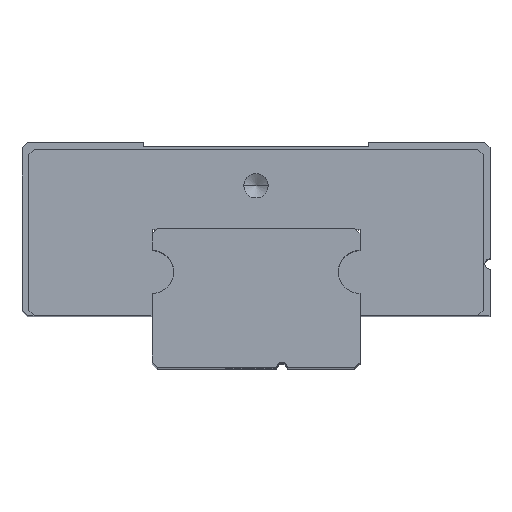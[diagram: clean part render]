
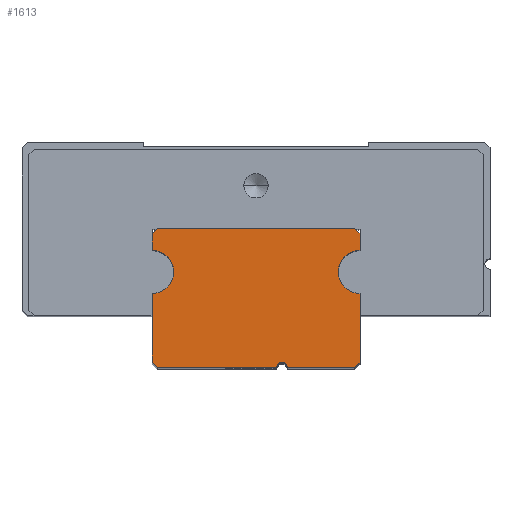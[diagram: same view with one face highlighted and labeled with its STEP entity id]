
A CAD part, top view. The second image highlights one B-rep face of the part: STEP entity #1613.
In plain terms, the highlighted planar face has unit normal (0, 0, 1).
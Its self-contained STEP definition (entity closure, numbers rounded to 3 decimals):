
#65 = DIRECTION ( 'NONE',  ( 0., -1., 0. ) ) ;
#83 = ORIENTED_EDGE ( 'NONE', *, *, #3582, .T. ) ;
#191 = ORIENTED_EDGE ( 'NONE', *, *, #1946, .T. ) ;
#228 = DIRECTION ( 'NONE',  ( 0., 0., 1. ) ) ;
#251 = EDGE_LOOP ( 'NONE', ( #191, #6255, #4224, #4396, #83, #284, #647, #2415, #5844, #5753, #6287, #1417, #5706, #4554, #1431 ) ) ;
#266 = CARTESIAN_POINT ( 'NONE',  ( 1.5, 0., 35. ) ) ;
#267 = EDGE_CURVE ( 'NONE', #4989, #5417, #1178, .T. ) ;
#284 = ORIENTED_EDGE ( 'NONE', *, *, #4544, .F. ) ;
#296 = VERTEX_POINT ( 'NONE', #3782 ) ;
#456 = VECTOR ( 'NONE', #864, 1000. ) ;
#471 = CARTESIAN_POINT ( 'NONE',  ( -6., 0.3, 35. ) ) ;
#553 = CARTESIAN_POINT ( 'NONE',  ( 6., 0., 35. ) ) ;
#647 = ORIENTED_EDGE ( 'NONE', *, *, #2744, .T. ) ;
#652 = DIRECTION ( 'NONE',  ( -0.707, -0.707, 0. ) ) ;
#690 = VERTEX_POINT ( 'NONE', #5147 ) ;
#817 = CARTESIAN_POINT ( 'NONE',  ( 1.2, 0., 35. ) ) ;
#864 = DIRECTION ( 'NONE',  ( 0.707, 0.707, 0. ) ) ;
#889 = CARTESIAN_POINT ( 'NONE',  ( 6., 5.5, 35. ) ) ;
#991 = VECTOR ( 'NONE', #5794, 1000. ) ;
#992 = CARTESIAN_POINT ( 'NONE',  ( 1.8, 0., 35. ) ) ;
#1035 = EDGE_CURVE ( 'NONE', #4948, #296, #4616, .T. ) ;
#1124 = EDGE_CURVE ( 'NONE', #3020, #3512, #4229, .T. ) ;
#1139 = LINE ( 'NONE', #4559, #4094 ) ;
#1178 = LINE ( 'NONE', #553, #5055 ) ;
#1201 = CARTESIAN_POINT ( 'NONE',  ( -5.7, 8., 35. ) ) ;
#1270 = CARTESIAN_POINT ( 'NONE',  ( 5.7, 8., 35. ) ) ;
#1298 = CARTESIAN_POINT ( 'NONE',  ( 6., 8., 35. ) ) ;
#1417 = ORIENTED_EDGE ( 'NONE', *, *, #4705, .F. ) ;
#1431 = ORIENTED_EDGE ( 'NONE', *, *, #5610, .T. ) ;
#1556 = LINE ( 'NONE', #6038, #2778 ) ;
#1559 = VERTEX_POINT ( 'NONE', #1201 ) ;
#1613 = ADVANCED_FACE ( 'NONE', ( #2323 ), #5179, .F. ) ;
#1637 = VERTEX_POINT ( 'NONE', #1710 ) ;
#1702 = DIRECTION ( 'NONE',  ( -1., 0., 0. ) ) ;
#1710 = CARTESIAN_POINT ( 'NONE',  ( -5.7, 0., 35. ) ) ;
#1719 = CIRCLE ( 'NONE', #4513, 1.25 ) ;
#1776 = CARTESIAN_POINT ( 'NONE',  ( -6., 0., 35. ) ) ;
#1804 = VERTEX_POINT ( 'NONE', #3901 ) ;
#1914 = CARTESIAN_POINT ( 'NONE',  ( -6., 6.75, 35. ) ) ;
#1946 = EDGE_CURVE ( 'NONE', #1559, #3512, #1556, .T. ) ;
#2007 = DIRECTION ( 'NONE',  ( -1., 0., 0. ) ) ;
#2063 = VECTOR ( 'NONE', #3664, 1000. ) ;
#2188 = DIRECTION ( 'NONE',  ( -1., 0., 0. ) ) ;
#2234 = CARTESIAN_POINT ( 'NONE',  ( -6., 5.5, 35. ) ) ;
#2293 = DIRECTION ( 'NONE',  ( 0., -1., 0. ) ) ;
#2315 = AXIS2_PLACEMENT_3D ( 'NONE', #5309, #4892, #4398 ) ;
#2323 = FACE_OUTER_BOUND ( 'NONE', #251, .T. ) ;
#2415 = ORIENTED_EDGE ( 'NONE', *, *, #4650, .F. ) ;
#2504 = CARTESIAN_POINT ( 'NONE',  ( 6., 4.25, 35. ) ) ;
#2574 = EDGE_CURVE ( 'NONE', #1804, #3020, #5605, .T. ) ;
#2616 = AXIS2_PLACEMENT_3D ( 'NONE', #2234, #5218, #6111 ) ;
#2673 = DIRECTION ( 'NONE',  ( 0., 1., 0. ) ) ;
#2704 = DIRECTION ( 'NONE',  ( 0., 0., -1. ) ) ;
#2744 = EDGE_CURVE ( 'NONE', #5618, #2791, #6136, .T. ) ;
#2774 = VECTOR ( 'NONE', #2673, 1000. ) ;
#2778 = VECTOR ( 'NONE', #652, 1000. ) ;
#2791 = VERTEX_POINT ( 'NONE', #992 ) ;
#2837 = DIRECTION ( 'NONE',  ( -1., 0., 0. ) ) ;
#2966 = CARTESIAN_POINT ( 'NONE',  ( 4.75, 5.5, 35. ) ) ;
#3020 = VERTEX_POINT ( 'NONE', #1914 ) ;
#3041 = CIRCLE ( 'NONE', #3548, 1.25 ) ;
#3048 = VERTEX_POINT ( 'NONE', #6376 ) ;
#3052 = EDGE_CURVE ( 'NONE', #690, #296, #5887, .T. ) ;
#3136 = VECTOR ( 'NONE', #1702, 1000. ) ;
#3240 = LINE ( 'NONE', #4745, #3136 ) ;
#3242 = DIRECTION ( 'NONE',  ( -1., 0., 0. ) ) ;
#3317 = CARTESIAN_POINT ( 'NONE',  ( 6., 0.3, 35. ) ) ;
#3318 = EDGE_CURVE ( 'NONE', #4490, #4989, #1719, .T. ) ;
#3512 = VERTEX_POINT ( 'NONE', #4424 ) ;
#3548 = AXIS2_PLACEMENT_3D ( 'NONE', #4645, #228, #2188 ) ;
#3582 = EDGE_CURVE ( 'NONE', #4454, #1637, #1139, .T. ) ;
#3664 = DIRECTION ( 'NONE',  ( 0.707, -0.707, 0. ) ) ;
#3782 = CARTESIAN_POINT ( 'NONE',  ( 6., 7.7, 35. ) ) ;
#3815 = CARTESIAN_POINT ( 'NONE',  ( 6., 6.75, 35. ) ) ;
#3887 = VECTOR ( 'NONE', #6276, 1000. ) ;
#3901 = CARTESIAN_POINT ( 'NONE',  ( -6., 4.25, 35. ) ) ;
#4094 = VECTOR ( 'NONE', #5015, 1000. ) ;
#4174 = VECTOR ( 'NONE', #3242, 1000. ) ;
#4224 = ORIENTED_EDGE ( 'NONE', *, *, #2574, .F. ) ;
#4229 = LINE ( 'NONE', #1776, #2774 ) ;
#4305 = CARTESIAN_POINT ( 'NONE',  ( -6., 0., 35. ) ) ;
#4396 = ORIENTED_EDGE ( 'NONE', *, *, #5303, .F. ) ;
#4398 = DIRECTION ( 'NONE',  ( -1., 0., 0. ) ) ;
#4424 = CARTESIAN_POINT ( 'NONE',  ( -6., 7.7, 35. ) ) ;
#4453 = CARTESIAN_POINT ( 'NONE',  ( 5.7, 8., 35. ) ) ;
#4454 = VERTEX_POINT ( 'NONE', #471 ) ;
#4490 = VERTEX_POINT ( 'NONE', #2966 ) ;
#4505 = CARTESIAN_POINT ( 'NONE',  ( 6., 0.3, 35. ) ) ;
#4513 = AXIS2_PLACEMENT_3D ( 'NONE', #889, #5785, #2837 ) ;
#4544 = EDGE_CURVE ( 'NONE', #5618, #1637, #5495, .T. ) ;
#4554 = ORIENTED_EDGE ( 'NONE', *, *, #1035, .F. ) ;
#4559 = CARTESIAN_POINT ( 'NONE',  ( -5.7, 0., 35. ) ) ;
#4616 = LINE ( 'NONE', #1270, #2063 ) ;
#4641 = AXIS2_PLACEMENT_3D ( 'NONE', #266, #2704, #2293 ) ;
#4645 = CARTESIAN_POINT ( 'NONE',  ( 6., 5.5, 35. ) ) ;
#4650 = EDGE_CURVE ( 'NONE', #3048, #2791, #3240, .T. ) ;
#4705 = EDGE_CURVE ( 'NONE', #690, #4490, #3041, .T. ) ;
#4728 = LINE ( 'NONE', #4305, #991 ) ;
#4745 = CARTESIAN_POINT ( 'NONE',  ( 1.5, 0., 35. ) ) ;
#4892 = DIRECTION ( 'NONE',  ( 0., 0., -1. ) ) ;
#4948 = VERTEX_POINT ( 'NONE', #4453 ) ;
#4989 = VERTEX_POINT ( 'NONE', #2504 ) ;
#5015 = DIRECTION ( 'NONE',  ( 0.707, -0.707, 0. ) ) ;
#5048 = CARTESIAN_POINT ( 'NONE',  ( 1.5, 0., 35. ) ) ;
#5055 = VECTOR ( 'NONE', #65, 1000. ) ;
#5147 = CARTESIAN_POINT ( 'NONE',  ( 6., 6.75, 35. ) ) ;
#5179 = PLANE ( 'NONE',  #4641 ) ;
#5218 = DIRECTION ( 'NONE',  ( 0., 0., 1. ) ) ;
#5303 = EDGE_CURVE ( 'NONE', #4454, #1804, #4728, .T. ) ;
#5309 = CARTESIAN_POINT ( 'NONE',  ( 1.5, 0., 35. ) ) ;
#5417 = VERTEX_POINT ( 'NONE', #4505 ) ;
#5495 = LINE ( 'NONE', #5048, #6355 ) ;
#5605 = CIRCLE ( 'NONE', #2616, 1.25 ) ;
#5610 = EDGE_CURVE ( 'NONE', #4948, #1559, #6200, .T. ) ;
#5618 = VERTEX_POINT ( 'NONE', #817 ) ;
#5706 = ORIENTED_EDGE ( 'NONE', *, *, #3052, .T. ) ;
#5753 = ORIENTED_EDGE ( 'NONE', *, *, #267, .F. ) ;
#5785 = DIRECTION ( 'NONE',  ( 0., 0., 1. ) ) ;
#5794 = DIRECTION ( 'NONE',  ( 0., 1., 0. ) ) ;
#5844 = ORIENTED_EDGE ( 'NONE', *, *, #6385, .T. ) ;
#5887 = LINE ( 'NONE', #3815, #3887 ) ;
#6038 = CARTESIAN_POINT ( 'NONE',  ( -6., 7.7, 35. ) ) ;
#6111 = DIRECTION ( 'NONE',  ( -1., 0., 0. ) ) ;
#6136 = CIRCLE ( 'NONE', #2315, 0.3 ) ;
#6200 = LINE ( 'NONE', #1298, #4174 ) ;
#6255 = ORIENTED_EDGE ( 'NONE', *, *, #1124, .F. ) ;
#6276 = DIRECTION ( 'NONE',  ( 0., 1., 0. ) ) ;
#6287 = ORIENTED_EDGE ( 'NONE', *, *, #3318, .F. ) ;
#6313 = LINE ( 'NONE', #3317, #456 ) ;
#6355 = VECTOR ( 'NONE', #2007, 1000. ) ;
#6376 = CARTESIAN_POINT ( 'NONE',  ( 5.7, 0., 35. ) ) ;
#6385 = EDGE_CURVE ( 'NONE', #3048, #5417, #6313, .T. ) ;
